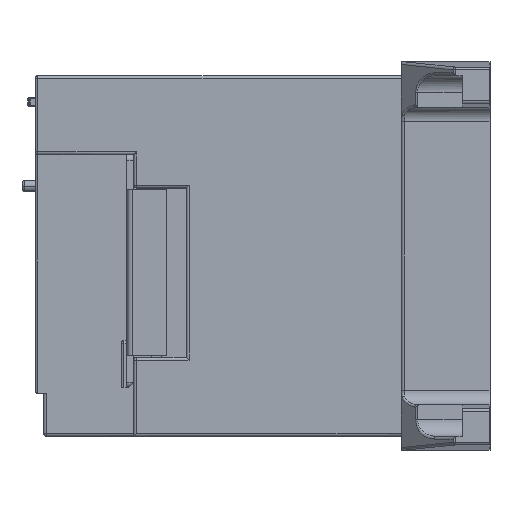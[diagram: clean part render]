
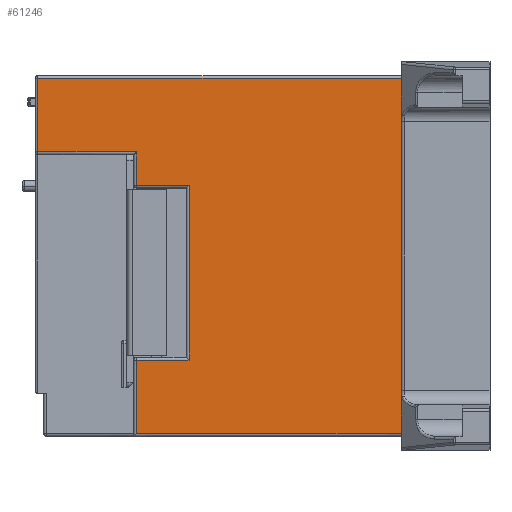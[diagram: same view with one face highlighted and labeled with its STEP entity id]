
A CAD part, left-side view. The second image highlights one B-rep face of the part: STEP entity #61246.
In plain terms, the highlighted planar face has unit normal (-1, 0, 0).
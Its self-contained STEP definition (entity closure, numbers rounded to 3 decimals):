
#661 = EDGE_CURVE ( 'NONE', #60690, #22323, #27088, .T. ) ;
#847 = CARTESIAN_POINT ( 'NONE',  ( -38.604, 180.122, 26.817 ) ) ;
#1325 = CARTESIAN_POINT ( 'NONE',  ( -38.604, 84.622, 66.317 ) ) ;
#1901 = ORIENTED_EDGE ( 'NONE', *, *, #69828, .T. ) ;
#3336 = CARTESIAN_POINT ( 'NONE',  ( -38.604, 215.622, 39.817 ) ) ;
#3719 = DIRECTION ( 'NONE',  ( 1., 0., 0. ) ) ;
#6111 = EDGE_CURVE ( 'NONE', #66523, #42858, #56385, .T. ) ;
#7234 = DIRECTION ( 'NONE',  ( 0., -1., 0. ) ) ;
#7402 = DIRECTION ( 'NONE',  ( 0., 0., -1. ) ) ;
#8128 = LINE ( 'NONE', #847, #17620 ) ;
#8530 = DIRECTION ( 'NONE',  ( 0., 1., 0. ) ) ;
#9546 = DIRECTION ( 'NONE',  ( 0., 1., 0. ) ) ;
#10241 = DIRECTION ( 'NONE',  ( 0., -1., 0. ) ) ;
#10399 = VERTEX_POINT ( 'NONE', #1325 ) ;
#11124 = VERTEX_POINT ( 'NONE', #54673 ) ;
#12845 = CARTESIAN_POINT ( 'NONE',  ( -38.604, 216.622, 66.317 ) ) ;
#12985 = CARTESIAN_POINT ( 'NONE',  ( -38.604, 84.622, -62.683 ) ) ;
#13491 = CARTESIAN_POINT ( 'NONE',  ( -38.604, 216.622, 39.817 ) ) ;
#14001 = AXIS2_PLACEMENT_3D ( 'NONE', #14852, #3719, #9546 ) ;
#14234 = LINE ( 'NONE', #33868, #61631 ) ;
#14852 = CARTESIAN_POINT ( 'NONE',  ( -38.604, 216.622, -62.683 ) ) ;
#17061 = DIRECTION ( 'NONE',  ( 0., 0., -1. ) ) ;
#17620 = VECTOR ( 'NONE', #17061, 1000. ) ;
#19087 = EDGE_LOOP ( 'NONE', ( #48669, #52280, #66042, #56177, #1901, #55620, #55350, #35466, #65392, #69622 ) ) ;
#19445 = VECTOR ( 'NONE', #38437, 1000. ) ;
#20485 = CARTESIAN_POINT ( 'NONE',  ( -38.604, 84.622, -61.683 ) ) ;
#21081 = VECTOR ( 'NONE', #10241, 1000. ) ;
#22323 = VERTEX_POINT ( 'NONE', #37734 ) ;
#22900 = LINE ( 'NONE', #59846, #19445 ) ;
#23715 = DIRECTION ( 'NONE',  ( 0., 1., 0. ) ) ;
#24107 = LINE ( 'NONE', #12845, #43039 ) ;
#27088 = LINE ( 'NONE', #43226, #21081 ) ;
#27107 = VECTOR ( 'NONE', #7234, 1000. ) ;
#28582 = LINE ( 'NONE', #62814, #32023 ) ;
#29801 = VERTEX_POINT ( 'NONE', #66567 ) ;
#31123 = VERTEX_POINT ( 'NONE', #36424 ) ;
#32023 = VECTOR ( 'NONE', #40691, 1000. ) ;
#33868 = CARTESIAN_POINT ( 'NONE',  ( -38.604, 216.622, -61.683 ) ) ;
#35466 = ORIENTED_EDGE ( 'NONE', *, *, #68529, .T. ) ;
#36424 = CARTESIAN_POINT ( 'NONE',  ( -38.604, 215.622, 66.317 ) ) ;
#37734 = CARTESIAN_POINT ( 'NONE',  ( -38.604, 161.122, 27.817 ) ) ;
#38437 = DIRECTION ( 'NONE',  ( 0., 0., -1. ) ) ;
#38556 = EDGE_CURVE ( 'NONE', #42858, #60690, #8128, .T. ) ;
#39676 = CARTESIAN_POINT ( 'NONE',  ( -38.604, 180.122, 39.817 ) ) ;
#40691 = DIRECTION ( 'NONE',  ( 0., 0., -1. ) ) ;
#41818 = PLANE ( 'NONE',  #14001 ) ;
#42435 = VECTOR ( 'NONE', #7402, 1000. ) ;
#42497 = LINE ( 'NONE', #67841, #42435 ) ;
#42858 = VERTEX_POINT ( 'NONE', #39676 ) ;
#43039 = VECTOR ( 'NONE', #23715, 1000. ) ;
#43226 = CARTESIAN_POINT ( 'NONE',  ( -38.604, 162.122, 27.817 ) ) ;
#48568 = CARTESIAN_POINT ( 'NONE',  ( -38.604, 180.122, -61.683 ) ) ;
#48613 = LINE ( 'NONE', #52088, #56370 ) ;
#48669 = ORIENTED_EDGE ( 'NONE', *, *, #6111, .T. ) ;
#51151 = FACE_OUTER_BOUND ( 'NONE', #19087, .T. ) ;
#52088 = CARTESIAN_POINT ( 'NONE',  ( -38.604, 181.122, -35.183 ) ) ;
#52280 = ORIENTED_EDGE ( 'NONE', *, *, #38556, .T. ) ;
#53999 = LINE ( 'NONE', #12985, #66915 ) ;
#54673 = CARTESIAN_POINT ( 'NONE',  ( -38.604, 180.122, -35.183 ) ) ;
#55350 = ORIENTED_EDGE ( 'NONE', *, *, #69525, .T. ) ;
#55620 = ORIENTED_EDGE ( 'NONE', *, *, #62591, .T. ) ;
#56177 = ORIENTED_EDGE ( 'NONE', *, *, #66808, .T. ) ;
#56370 = VECTOR ( 'NONE', #8530, 1000. ) ;
#56385 = LINE ( 'NONE', #13491, #27107 ) ;
#56812 = VERTEX_POINT ( 'NONE', #48568 ) ;
#57636 = EDGE_CURVE ( 'NONE', #10399, #31123, #24107, .T. ) ;
#59846 = CARTESIAN_POINT ( 'NONE',  ( -38.604, 215.622, 39.817 ) ) ;
#60690 = VERTEX_POINT ( 'NONE', #67306 ) ;
#61038 = DIRECTION ( 'NONE',  ( 0., -1., 0. ) ) ;
#61246 = ADVANCED_FACE ( 'NONE', ( #51151 ), #41818, .F. ) ;
#61631 = VECTOR ( 'NONE', #61038, 1000. ) ;
#62591 = EDGE_CURVE ( 'NONE', #11124, #56812, #28582, .T. ) ;
#62814 = CARTESIAN_POINT ( 'NONE',  ( -38.604, 180.122, -62.683 ) ) ;
#63044 = DIRECTION ( 'NONE',  ( 0., 0., 1. ) ) ;
#65392 = ORIENTED_EDGE ( 'NONE', *, *, #57636, .T. ) ;
#66042 = ORIENTED_EDGE ( 'NONE', *, *, #661, .T. ) ;
#66523 = VERTEX_POINT ( 'NONE', #3336 ) ;
#66567 = CARTESIAN_POINT ( 'NONE',  ( -38.604, 161.122, -35.183 ) ) ;
#66808 = EDGE_CURVE ( 'NONE', #22323, #29801, #42497, .T. ) ;
#66915 = VECTOR ( 'NONE', #63044, 1000. ) ;
#67306 = CARTESIAN_POINT ( 'NONE',  ( -38.604, 180.122, 27.817 ) ) ;
#67841 = CARTESIAN_POINT ( 'NONE',  ( -38.604, 161.122, -34.183 ) ) ;
#68194 = VERTEX_POINT ( 'NONE', #20485 ) ;
#68529 = EDGE_CURVE ( 'NONE', #68194, #10399, #53999, .T. ) ;
#69386 = EDGE_CURVE ( 'NONE', #31123, #66523, #22900, .T. ) ;
#69525 = EDGE_CURVE ( 'NONE', #56812, #68194, #14234, .T. ) ;
#69622 = ORIENTED_EDGE ( 'NONE', *, *, #69386, .T. ) ;
#69828 = EDGE_CURVE ( 'NONE', #29801, #11124, #48613, .T. ) ;
